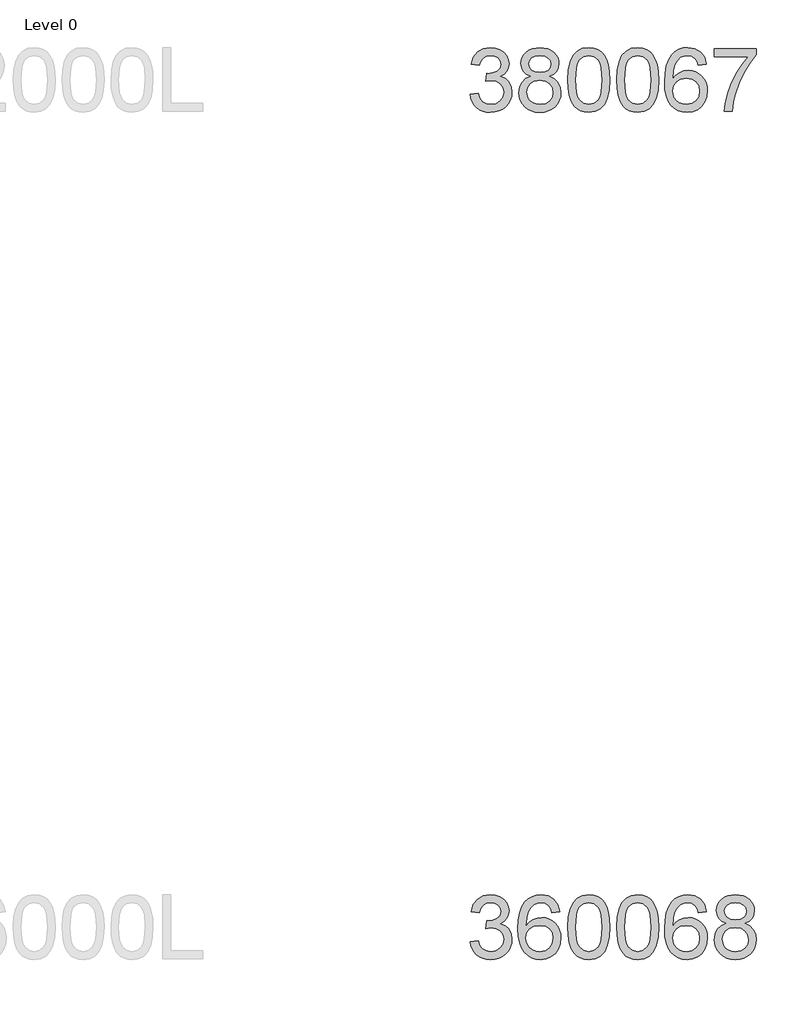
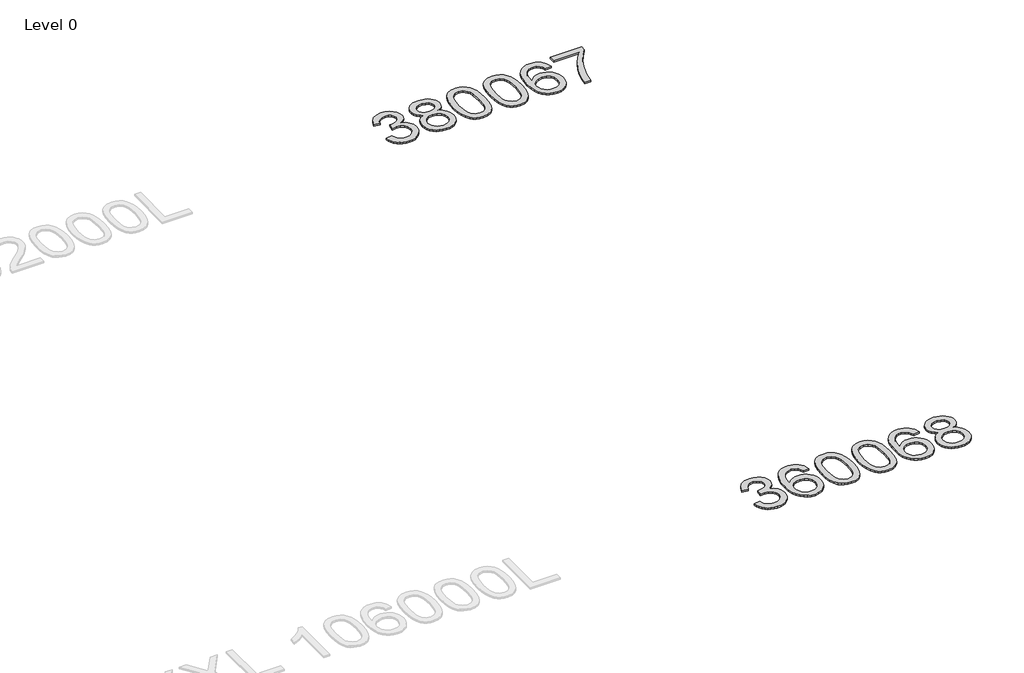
# One storey, part 25 of 37: 2 proxies.
"""IFC4 building model written with IfcOpenShell, lengths in millimetres."""

from ifc_helpers import new_model, si_unit, origin, origin_with_axes, place, context, project, spatial, polyline, outline, extrude, element, save

model = new_model("IFC4")

# Units and contexts
model_context = context("Model", 3, world=origin())
ifc_project = project(units=[si_unit("LENGTHUNIT", "METRE", prefix="MILLI")], contexts=[model_context])

# Site, building, storey
site = spatial("IfcSite", under=ifc_project)
building = spatial("IfcBuilding", under=site)
storey = spatial("IfcBuildingStorey", under=building, Name="Level 0", Elevation=0.0)

# Proxies
placement = place(None, origin())
element("IfcBuildingElementProxy", 1, Name="300mm Arial", ObjectType="300mm Arial", at=placement, inside=storey, context=model_context, shape_type="SweptSolid", body=[
    extrude(outline(polyline([(27688.7153576, -25620.925676), (27726.3864739, -25616.2167865), (27734.8201687, -25639.8899929), (27747.1718066, -25655.8744656), (27764.0483932, -25664.979545), (27786.0569335, -25668.0145714), (27811.8822496, -25663.8391108), (27831.8214537, -25651.3127288), (27844.5685649, -25632.6243235), (27848.8176019, -25609.9627926), (27844.6053531, -25588.4508929), (27831.9686065, -25571.0040893), (27812.8387428, -25559.4433976), (27789.1471423, -25555.5898337), (27762.733215, -25559.710112), (27766.9270698, -25522.0389957), (27772.9603345, -25522.4804541), (27795.5298949, -25519.7765215), (27815.7082223, -25511.6647235), (27829.9452556, -25497.942725), (27834.6909333, -25478.4081911), (27831.2512366, -25462.1386099), (27820.9321467, -25448.9408433), (27805.1867973, -25440.1944488), (27785.4683223, -25437.278984), (27765.7130592, -25440.22204), (27749.5630396, -25449.0512079), (27737.7724217, -25463.7664877), (27731.0953635, -25484.3678794), (27693.4242472, -25479.6589899), (27704.5158893, -25445.8322404), (27724.2527583, -25420.5771415), (27751.2552968, -25404.8501862), (27784.1439472, -25399.6078677), (27807.8263506, -25402.1922387), (27829.5773736, -25409.9453518), (27847.916291, -25422.1774281), (27861.362378, -25438.198689), (27869.6121317, -25456.6571681), (27872.3620496, -25476.2008991), (27869.7500874, -25494.4110579), (27861.9142009, -25510.9289595), (27848.9647547, -25525.0004458), (27831.0121133, -25535.8713587), (27854.5933492, -25545.3995024), (27872.067744, -25561.6230984), (27882.8834747, -25583.6592299), (27886.4887182, -25610.6249802), (27884.6860964, -25629.7364498), (27879.2782311, -25647.3396033), (27870.2651222, -25663.4344406), (27857.6467698, -25678.0209617), (27842.2739009, -25690.1242793), (27824.9972427, -25698.7695062), (27805.8167952, -25703.9566423), (27784.7325584, -25705.6856877), (27765.676271, -25704.2095612), (27748.3122408, -25699.7811817), (27732.6404678, -25692.4005492), (27718.660952, -25682.0676636), (27706.9393119, -25669.3895304), (27698.0411662, -25654.9731547), (27691.9665147, -25638.8185366), (27688.7153576, -25620.925676)])), origin_with_axes(), (0.0, 0.0, 1.0), 10.0),
    extrude(outline(polyline([(27974.3389387, -25534.988442), (27954.1698083, -25525.0556281), (27940.0155485, -25511.5911471), (27931.6554302, -25494.8709104), (27928.8687241, -25475.1708295), (27930.3862373, -25459.8071577), (27934.938777, -25445.7218758), (27942.5263431, -25432.9149839), (27953.1489357, -25421.3864818), (27966.2961185, -25411.8583382), (27981.4574553, -25405.0525213), (28017.8225905, -25399.6078677), (28054.4084549, -25405.18128), (28069.7353385, -25412.1480452), (28083.0848564, -25421.9015166), (28093.9005871, -25433.6553464), (28101.626109, -25446.6231867), (28106.2614221, -25460.8050376), (28107.8065265, -25476.2008991), (28105.0566086, -25495.2663835), (28096.8068549, -25511.7015117), (28082.9652948, -25525.0832192), (28063.4399579, -25534.988442), (28086.6257206, -25546.9354097), (28103.5023072, -25564.5293662), (28113.793806, -25586.9241826), (28117.2243056, -25613.2737305), (28115.5228514, -25632.0633034), (28110.4184887, -25649.2893779), (28101.9112175, -25664.9519538), (28090.001038, -25679.0510313), (28075.3133493, -25690.7036935), (28058.473551, -25699.0270236), (28039.481643, -25704.0210217), (28018.3376253, -25705.6856877), (27997.1936076, -25704.0141239), (27978.2016996, -25698.9994325), (27961.3619013, -25690.6416134), (27946.6742126, -25678.9406667), (27934.764033, -25664.7427209), (27926.2567619, -25648.8939047), (27921.1523992, -25631.3942181), (27919.450945, -25612.2436609), (27923.0194003, -25584.8732405), (27933.7247664, -25562.3588624), (27951.0152202, -25545.4730788), (27974.3389387, -25534.988442)]), holes=[polyline([(27966.5398404, -25476.2744755), (27969.8783695, -25492.7188007), (27979.8939568, -25505.8521879), (27996.2922967, -25514.4606266), (28018.7790837, -25517.3301062), (28040.7416388, -25514.4790207), (28056.8916584, -25505.9257643), (28066.8244723, -25493.2338355), (28070.1354102, -25477.9667327), (28066.7141077, -25462.1202158), (28056.4502, -25449.0144197), (28040.0794512, -25440.2128429), (28018.3376253, -25437.278984), (27996.4578436, -25440.1484636), (27980.114686, -25448.7569023), (27969.9335518, -25461.3752547), (27966.5398404, -25476.2744755)]), polyline([(27957.1220613, -25610.9192858), (27963.4128434, -25639.2829876), (27972.1224496, -25651.4506846), (27985.6697041, -25660.5097787), (28001.8933001, -25666.1383732), (28018.6319309, -25668.0145714), (28044.273306, -25664.069037), (28063.5135343, -25652.2324338), (28075.5432755, -25634.3073836), (28079.5531893, -25612.0965081), (28075.4145168, -25589.5085536), (28062.9984995, -25571.1880303), (28043.3168128, -25559.0479244), (28017.3811321, -25555.0012225), (27992.098442, -25558.9927421), (27973.0513517, -25570.9673011), (27961.1043839, -25588.9383365), (27957.1220613, -25610.9192858)])]), origin_with_axes(), (0.0, 0.0, 1.0), 10.0),
    extrude(outline(polyline([(28150.1865324, -25552.7203541), (28152.9548444, -25504.4818275), (28161.2597804, -25466.0105679), (28175.018567, -25436.717964), (28194.1484308, -25416.0154047), (28218.7873274, -25403.709752), (28249.0732127, -25399.6078677), (28272.2865666, -25402.0358889), (28293.0718993, -25409.3199524), (28310.4543236, -25421.1749497), (28323.4589521, -25437.3157722), (28333.2814014, -25457.6044643), (28341.1172879, -25481.9030701), (28346.2492417, -25512.7591724), (28347.959893, -25552.7203541), (28345.2191721, -25600.6829692), (28336.9970095, -25639.0622584), (28323.3209963, -25668.3824534), (28304.2187237, -25689.1677861), (28279.5246448, -25701.5562123), (28249.0732127, -25705.6856877), (28228.3246681, -25703.892263), (28209.9305684, -25698.5119888), (28193.8909134, -25689.5448652), (28180.2057032, -25676.9908921), (28167.0723159, -25654.2971715), (28157.6913251, -25626.0208417), (28152.0627305, -25592.1619025), (28150.1865324, -25552.7203541)]), holes=[polyline([(28187.8576487, -25552.6467777), (28192.2722326, -25611.9033701), (28197.7904625, -25632.1713688), (28205.5159844, -25646.1991691), (28225.2344594, -25662.5607208), (28249.0732127, -25668.0145714), (28272.911966, -25662.5423267), (28292.6304409, -25646.1255927), (28300.3559628, -25632.0747997), (28305.8741927, -25611.8113996), (28310.2887767, -25552.6467777), (28306.0213455, -25494.7237576), (28300.6870566, -25474.5224375), (28293.2190521, -25460.1612441), (28273.5373653, -25442.9995491), (28248.6317543, -25437.278984), (28225.0505184, -25442.3189674), (28206.1045956, -25457.4389174), (28198.1215563, -25473.0739022), (28192.4193854, -25494.1535405), (28187.8576487, -25552.6467777)])]), origin_with_axes(), (0.0, 0.0, 1.0), 10.0),
    extrude(outline(polyline([(28380.9221197, -25552.7203541), (28383.6904318, -25504.4818275), (28391.9953678, -25466.0105679), (28405.7541544, -25436.717964), (28424.8840182, -25416.0154047), (28449.5229148, -25403.709752), (28479.8088, -25399.6078677), (28503.0221539, -25402.0358889), (28523.8074867, -25409.3199524), (28541.1899109, -25421.1749497), (28554.1945395, -25437.3157722), (28564.0169887, -25457.6044643), (28571.8528752, -25481.9030701), (28576.9848291, -25512.7591724), (28578.6954803, -25552.7203541), (28575.9547595, -25600.6829692), (28567.7325969, -25639.0622584), (28554.0565837, -25668.3824534), (28534.9543111, -25689.1677861), (28510.2602322, -25701.5562123), (28479.8088, -25705.6856877), (28459.0602555, -25703.892263), (28440.6661558, -25698.5119888), (28424.6265008, -25689.5448652), (28410.9412905, -25676.9908921), (28397.8079033, -25654.2971715), (28388.4269124, -25626.0208417), (28382.7983179, -25592.1619025), (28380.9221197, -25552.7203541)]), holes=[polyline([(28418.593236, -25552.6467777), (28423.00782, -25611.9033701), (28428.5260499, -25632.1713688), (28436.2515718, -25646.1991691), (28455.9700468, -25662.5607208), (28479.8088, -25668.0145714), (28503.6475533, -25662.5423267), (28523.3660283, -25646.1255927), (28531.0915502, -25632.0747997), (28536.6097801, -25611.8113996), (28541.024364, -25552.6467777), (28536.7569329, -25494.7237576), (28531.422644, -25474.5224375), (28523.9546395, -25460.1612441), (28504.2729527, -25442.9995491), (28479.3673416, -25437.278984), (28455.7861058, -25442.3189674), (28436.840183, -25457.4389174), (28428.8571437, -25473.0739022), (28423.1549728, -25494.1535405), (28418.593236, -25552.6467777)])]), origin_with_axes(), (0.0, 0.0, 1.0), 10.0),
    extrude(outline(polyline([(28804.7221782, -25479.6589899), (28767.0510619, -25484.3678794), (28760.981009, -25465.6978682), (28752.7772405, -25452.950757), (28735.6891218, -25441.1969273), (28715.0325478, -25437.278984), (28697.5213648, -25439.5598524), (28681.0402514, -25446.4024575), (28666.8859916, -25460.8142347), (28655.3252999, -25480.6522713), (28647.5170046, -25508.7124704), (28644.6199339, -25547.7907354), (28659.7306868, -25530.1599908), (28677.839678, -25517.7347764), (28697.935232, -25510.3679394), (28719.0056733, -25507.9123271), (28737.1054675, -25509.5907887), (28753.80731, -25514.6261735), (28769.111201, -25523.0184815), (28783.0171405, -25534.7677128), (28794.5732336, -25549.1748914), (28802.8275859, -25565.5410417), (28807.7801973, -25583.8661635), (28809.4310677, -25604.150257), (28806.3224649, -25631.1252043), (28796.9966563, -25656.131983), (28782.2261942, -25677.34038), (28762.7836307, -25692.9201825), (28739.5518827, -25702.4943114), (28713.413867, -25705.6856877), (28690.9569704, -25703.5703662), (28670.6751762, -25697.2244018), (28652.5684842, -25686.6477945), (28636.6368946, -25671.8405442), (28623.6483609, -25652.1772515), (28614.3708368, -25627.0325171), (28608.8043224, -25596.406341), (28606.9488176, -25560.2987232), (28609.0089567, -25519.8179082), (28615.1893743, -25485.2691903), (28625.4900701, -25456.6525696), (28639.9110443, -25433.9680461), (28655.5414306, -25418.9354681), (28673.6642174, -25408.1979123), (28694.2794047, -25401.7553789), (28717.3869925, -25399.6078677), (28750.4411898, -25404.9237626), (28776.9102993, -25420.8714471), (28795.4515519, -25446.2001224), (28804.7221782, -25479.6589899)]), holes=[polyline([(28644.6199339, -25603.5616459), (28646.7996347, -25620.2542914), (28653.3387372, -25636.1927788), (28663.4922802, -25649.8963831), (28676.5153029, -25659.8843793), (28692.2330611, -25665.9820234), (28710.470811, -25668.0145714), (28735.3304368, -25663.8023226), (28754.8741678, -25651.165576), (28767.5385055, -25631.2999483), (28771.7599514, -25605.4010558), (28767.5936878, -25580.54143), (28755.094897, -25561.5863102), (28735.2200722, -25549.5841601), (28708.9257066, -25545.5834434), (28684.102869, -25549.5841601), (28663.3451274, -25561.5863102), (28649.3012323, -25580.0815775), (28644.6199339, -25603.5616459)])]), origin_with_axes(), (0.0, 0.0, 1.0), 10.0),
    extrude(outline(polyline([(28842.3932945, -25441.9878736), (28842.3932945, -25404.3167573), (29040.1666551, -25404.3167573), (29040.1666551, -25434.7773865), (29011.9776972, -25470.452743), (28984.0646508, -25515.82179), (28959.4441483, -25566.7458552), (28941.132822, -25619.0862661), (28932.1565013, -25658.2473044), (28927.1533062, -25700.9767982), (28889.4821899, -25700.9767982), (28893.556483, -25662.1468536), (28904.4549871, -25615.9960573), (28921.8833966, -25567.076949), (28945.5474059, -25519.9420684), (28973.1753438, -25477.3321363), (29002.4955388, -25441.9878736), (28842.3932945, -25441.9878736)])), origin_with_axes(), (0.0, 0.0, 1.0), 10.0),
])
element("IfcBuildingElementProxy", 2, Name="300mm Arial", ObjectType="300mm Arial", at=placement, inside=storey, context=model_context, shape_type="SweptSolid", body=[
    extrude(outline(polyline([(27688.7153576, -29620.925676), (27726.3864739, -29616.2167865), (27734.8201687, -29639.8899929), (27747.1718066, -29655.8744656), (27764.0483932, -29664.979545), (27786.0569335, -29668.0145714), (27811.8822496, -29663.8391108), (27831.8214537, -29651.3127288), (27844.5685649, -29632.6243235), (27848.8176019, -29609.9627926), (27844.6053531, -29588.4508929), (27831.9686065, -29571.0040893), (27812.8387428, -29559.4433976), (27789.1471423, -29555.5898337), (27762.733215, -29559.710112), (27766.9270698, -29522.0389957), (27772.9603345, -29522.4804541), (27795.5298949, -29519.7765215), (27815.7082223, -29511.6647235), (27829.9452556, -29497.942725), (27834.6909333, -29478.4081911), (27831.2512366, -29462.1386099), (27820.9321467, -29448.9408433), (27805.1867973, -29440.1944488), (27785.4683223, -29437.278984), (27765.7130592, -29440.22204), (27749.5630396, -29449.0512079), (27737.7724217, -29463.7664877), (27731.0953635, -29484.3678794), (27693.4242472, -29479.6589899), (27704.5158893, -29445.8322404), (27724.2527583, -29420.5771415), (27751.2552968, -29404.8501862), (27784.1439472, -29399.6078677), (27807.8263506, -29402.1922387), (27829.5773736, -29409.9453518), (27847.916291, -29422.1774281), (27861.362378, -29438.198689), (27869.6121317, -29456.6571681), (27872.3620496, -29476.2008991), (27869.7500874, -29494.4110579), (27861.9142009, -29510.9289595), (27848.9647547, -29525.0004458), (27831.0121133, -29535.8713587), (27854.5933492, -29545.3995024), (27872.067744, -29561.6230984), (27882.8834747, -29583.6592299), (27886.4887182, -29610.6249802), (27884.6860964, -29629.7364498), (27879.2782311, -29647.3396033), (27870.2651222, -29663.4344406), (27857.6467698, -29678.0209617), (27842.2739009, -29690.1242793), (27824.9972427, -29698.7695062), (27805.8167952, -29703.9566423), (27784.7325584, -29705.6856877), (27765.676271, -29704.2095612), (27748.3122408, -29699.7811817), (27732.6404678, -29692.4005492), (27718.660952, -29682.0676636), (27706.9393119, -29669.3895304), (27698.0411662, -29654.9731547), (27691.9665147, -29638.8185366), (27688.7153576, -29620.925676)])), origin_with_axes(), (0.0, 0.0, 1.0), 10.0),
    extrude(outline(polyline([(28112.5154161, -29479.6589899), (28074.8442998, -29484.3678794), (28068.7742468, -29465.6978682), (28060.5704783, -29452.950757), (28043.4823597, -29441.1969273), (28022.8257856, -29437.278984), (28005.3146027, -29439.5598524), (27988.8334893, -29446.4024575), (27974.6792295, -29460.8142347), (27963.1185378, -29480.6522713), (27955.3102425, -29508.7124704), (27952.4131718, -29547.7907354), (27967.5239247, -29530.1599908), (27985.6329159, -29517.7347764), (28005.7284699, -29510.3679394), (28026.7989112, -29507.9123271), (28044.8987053, -29509.5907887), (28061.6005479, -29514.6261735), (28076.9044389, -29523.0184815), (28090.8103783, -29534.7677128), (28102.3664715, -29549.1748914), (28110.6208238, -29565.5410417), (28115.5734351, -29583.8661635), (28117.2243056, -29604.150257), (28114.1157027, -29631.1252043), (28104.7898942, -29656.131983), (28090.0194321, -29677.34038), (28070.5768686, -29692.9201825), (28047.3451206, -29702.4943114), (28021.2071049, -29705.6856877), (27998.7502083, -29703.5703662), (27978.4684141, -29697.2244018), (27960.3617221, -29686.6477945), (27944.4301325, -29671.8405442), (27931.4415988, -29652.1772515), (27922.1640747, -29627.0325171), (27916.5975603, -29596.406341), (27914.7420555, -29560.2987232), (27916.8021946, -29519.8179082), (27922.9826121, -29485.2691903), (27933.283308, -29456.6525696), (27947.7042822, -29433.9680461), (27963.3346685, -29418.9354681), (27981.4574553, -29408.1979123), (28002.0726426, -29401.7553789), (28025.1802304, -29399.6078677), (28058.2344277, -29404.9237626), (28084.7035372, -29420.8714471), (28103.2447898, -29446.2001224), (28112.5154161, -29479.6589899)]), holes=[polyline([(27952.4131718, -29603.5616459), (27954.5928726, -29620.2542914), (27961.131975, -29636.1927788), (27971.2855181, -29649.8963831), (27984.3085407, -29659.8843793), (28000.026299, -29665.9820234), (28018.2640489, -29668.0145714), (28043.1236747, -29663.8023226), (28062.6674057, -29651.165576), (28075.3317434, -29631.2999483), (28079.5531893, -29605.4010558), (28075.3869257, -29580.54143), (28062.8881349, -29561.5863102), (28043.0133101, -29549.5841601), (28016.7189445, -29545.5834434), (27991.8961069, -29549.5841601), (27971.1383653, -29561.5863102), (27957.0944701, -29580.0815775), (27952.4131718, -29603.5616459)])]), origin_with_axes(), (0.0, 0.0, 1.0), 10.0),
    extrude(outline(polyline([(28150.1865324, -29552.7203541), (28152.9548444, -29504.4818275), (28161.2597804, -29466.0105679), (28175.018567, -29436.717964), (28194.1484308, -29416.0154047), (28218.7873274, -29403.709752), (28249.0732127, -29399.6078677), (28272.2865666, -29402.0358889), (28293.0718993, -29409.3199524), (28310.4543236, -29421.1749497), (28323.4589521, -29437.3157722), (28333.2814014, -29457.6044643), (28341.1172879, -29481.9030701), (28346.2492417, -29512.7591724), (28347.959893, -29552.7203541), (28345.2191721, -29600.6829692), (28336.9970095, -29639.0622584), (28323.3209963, -29668.3824534), (28304.2187237, -29689.1677861), (28279.5246448, -29701.5562123), (28249.0732127, -29705.6856877), (28228.3246681, -29703.892263), (28209.9305684, -29698.5119888), (28193.8909134, -29689.5448652), (28180.2057032, -29676.9908921), (28167.0723159, -29654.2971715), (28157.6913251, -29626.0208417), (28152.0627305, -29592.1619025), (28150.1865324, -29552.7203541)]), holes=[polyline([(28187.8576487, -29552.6467777), (28192.2722326, -29611.9033701), (28197.7904625, -29632.1713688), (28205.5159844, -29646.1991691), (28225.2344594, -29662.5607208), (28249.0732127, -29668.0145714), (28272.911966, -29662.5423267), (28292.6304409, -29646.1255927), (28300.3559628, -29632.0747997), (28305.8741927, -29611.8113996), (28310.2887767, -29552.6467777), (28306.0213455, -29494.7237576), (28300.6870566, -29474.5224375), (28293.2190521, -29460.1612441), (28273.5373653, -29442.9995491), (28248.6317543, -29437.278984), (28225.0505184, -29442.3189674), (28206.1045956, -29457.4389174), (28198.1215563, -29473.0739022), (28192.4193854, -29494.1535405), (28187.8576487, -29552.6467777)])]), origin_with_axes(), (0.0, 0.0, 1.0), 10.0),
    extrude(outline(polyline([(28380.9221197, -29552.7203541), (28383.6904318, -29504.4818275), (28391.9953678, -29466.0105679), (28405.7541544, -29436.717964), (28424.8840182, -29416.0154047), (28449.5229148, -29403.709752), (28479.8088, -29399.6078677), (28503.0221539, -29402.0358889), (28523.8074867, -29409.3199524), (28541.1899109, -29421.1749497), (28554.1945395, -29437.3157722), (28564.0169887, -29457.6044643), (28571.8528752, -29481.9030701), (28576.9848291, -29512.7591724), (28578.6954803, -29552.7203541), (28575.9547595, -29600.6829692), (28567.7325969, -29639.0622584), (28554.0565837, -29668.3824534), (28534.9543111, -29689.1677861), (28510.2602322, -29701.5562123), (28479.8088, -29705.6856877), (28459.0602555, -29703.892263), (28440.6661558, -29698.5119888), (28424.6265008, -29689.5448652), (28410.9412905, -29676.9908921), (28397.8079033, -29654.2971715), (28388.4269124, -29626.0208417), (28382.7983179, -29592.1619025), (28380.9221197, -29552.7203541)]), holes=[polyline([(28418.593236, -29552.6467777), (28423.00782, -29611.9033701), (28428.5260499, -29632.1713688), (28436.2515718, -29646.1991691), (28455.9700468, -29662.5607208), (28479.8088, -29668.0145714), (28503.6475533, -29662.5423267), (28523.3660283, -29646.1255927), (28531.0915502, -29632.0747997), (28536.6097801, -29611.8113996), (28541.024364, -29552.6467777), (28536.7569329, -29494.7237576), (28531.422644, -29474.5224375), (28523.9546395, -29460.1612441), (28504.2729527, -29442.9995491), (28479.3673416, -29437.278984), (28455.7861058, -29442.3189674), (28436.840183, -29457.4389174), (28428.8571437, -29473.0739022), (28423.1549728, -29494.1535405), (28418.593236, -29552.6467777)])]), origin_with_axes(), (0.0, 0.0, 1.0), 10.0),
    extrude(outline(polyline([(28804.7221782, -29479.6589899), (28767.0510619, -29484.3678794), (28760.981009, -29465.6978682), (28752.7772405, -29452.950757), (28735.6891218, -29441.1969273), (28715.0325478, -29437.278984), (28697.5213648, -29439.5598524), (28681.0402514, -29446.4024575), (28666.8859916, -29460.8142347), (28655.3252999, -29480.6522713), (28647.5170046, -29508.7124704), (28644.6199339, -29547.7907354), (28659.7306868, -29530.1599908), (28677.839678, -29517.7347764), (28697.935232, -29510.3679394), (28719.0056733, -29507.9123271), (28737.1054675, -29509.5907887), (28753.80731, -29514.6261735), (28769.111201, -29523.0184815), (28783.0171405, -29534.7677128), (28794.5732336, -29549.1748914), (28802.8275859, -29565.5410417), (28807.7801973, -29583.8661635), (28809.4310677, -29604.150257), (28806.3224649, -29631.1252043), (28796.9966563, -29656.131983), (28782.2261942, -29677.34038), (28762.7836307, -29692.9201825), (28739.5518827, -29702.4943114), (28713.413867, -29705.6856877), (28690.9569704, -29703.5703662), (28670.6751762, -29697.2244018), (28652.5684842, -29686.6477945), (28636.6368946, -29671.8405442), (28623.6483609, -29652.1772515), (28614.3708368, -29627.0325171), (28608.8043224, -29596.406341), (28606.9488176, -29560.2987232), (28609.0089567, -29519.8179082), (28615.1893743, -29485.2691903), (28625.4900701, -29456.6525696), (28639.9110443, -29433.9680461), (28655.5414306, -29418.9354681), (28673.6642174, -29408.1979123), (28694.2794047, -29401.7553789), (28717.3869925, -29399.6078677), (28750.4411898, -29404.9237626), (28776.9102993, -29420.8714471), (28795.4515519, -29446.2001224), (28804.7221782, -29479.6589899)]), holes=[polyline([(28644.6199339, -29603.5616459), (28646.7996347, -29620.2542914), (28653.3387372, -29636.1927788), (28663.4922802, -29649.8963831), (28676.5153029, -29659.8843793), (28692.2330611, -29665.9820234), (28710.470811, -29668.0145714), (28735.3304368, -29663.8023226), (28754.8741678, -29651.165576), (28767.5385055, -29631.2999483), (28771.7599514, -29605.4010558), (28767.5936878, -29580.54143), (28755.094897, -29561.5863102), (28735.2200722, -29549.5841601), (28708.9257066, -29545.5834434), (28684.102869, -29549.5841601), (28663.3451274, -29561.5863102), (28649.3012323, -29580.0815775), (28644.6199339, -29603.5616459)])]), origin_with_axes(), (0.0, 0.0, 1.0), 10.0),
    extrude(outline(polyline([(28897.2812882, -29534.988442), (28877.1121578, -29525.0556281), (28862.957898, -29511.5911471), (28854.5977797, -29494.8709104), (28851.8110736, -29475.1708295), (28853.3285868, -29459.8071577), (28857.8811265, -29445.7218758), (28865.4686926, -29432.9149839), (28876.0912852, -29421.3864818), (28889.238468, -29411.8583382), (28904.3998048, -29405.0525213), (28940.76494, -29399.6078677), (28977.3508044, -29405.18128), (28992.677688, -29412.1480452), (29006.0272059, -29421.9015166), (29016.8429366, -29433.6553464), (29024.5684585, -29446.6231867), (29029.2037716, -29460.8050376), (29030.748876, -29476.2008991), (29027.9989581, -29495.2663835), (29019.7492044, -29511.7015117), (29005.9076443, -29525.0832192), (28986.3823074, -29534.988442), (29009.5680701, -29546.9354097), (29026.4446567, -29564.5293662), (29036.7361555, -29586.9241826), (29040.1666551, -29613.2737305), (29038.4652009, -29632.0633034), (29033.3608382, -29649.2893779), (29024.853567, -29664.9519538), (29012.9433875, -29679.0510313), (28998.2556988, -29690.7036935), (28981.4159005, -29699.0270236), (28962.4239925, -29704.0210217), (28941.2799748, -29705.6856877), (28920.1359571, -29704.0141239), (28901.1440491, -29698.9994325), (28884.3042508, -29690.6416134), (28869.6165621, -29678.9406667), (28857.7063825, -29664.7427209), (28849.1991114, -29648.8939047), (28844.0947487, -29631.3942181), (28842.3932945, -29612.2436609), (28845.9617498, -29584.8732405), (28856.6671159, -29562.3588624), (28873.9575697, -29545.4730788), (28897.2812882, -29534.988442)]), holes=[polyline([(28889.4821899, -29476.2744755), (28892.820719, -29492.7188007), (28902.8363063, -29505.8521879), (28919.2346462, -29514.4606266), (28941.7214332, -29517.3301062), (28963.6839883, -29514.4790207), (28979.8340079, -29505.9257643), (28989.7668218, -29493.2338355), (28993.0777597, -29477.9667327), (28989.6564572, -29462.1202158), (28979.3925495, -29449.0144197), (28963.0218007, -29440.2128429), (28941.2799748, -29437.278984), (28919.4001931, -29440.1484636), (28903.0570355, -29448.7569023), (28892.8759013, -29461.3752547), (28889.4821899, -29476.2744755)]), polyline([(28880.0644108, -29610.9192858), (28886.3551929, -29639.2829876), (28895.0647991, -29651.4506846), (28908.6120536, -29660.5097787), (28924.8356496, -29666.1383732), (28941.5742804, -29668.0145714), (28967.2156555, -29664.069037), (28986.4558838, -29652.2324338), (28998.485625, -29634.3073836), (29002.4955388, -29612.0965081), (28998.3568663, -29589.5085536), (28985.940849, -29571.1880303), (28966.2591623, -29559.0479244), (28940.3234816, -29555.0012225), (28915.0407915, -29558.9927421), (28895.9937012, -29570.9673011), (28884.0467334, -29588.9383365), (28880.0644108, -29610.9192858)])]), origin_with_axes(), (0.0, 0.0, 1.0), 10.0),
])

save(model, "model.ifc")
